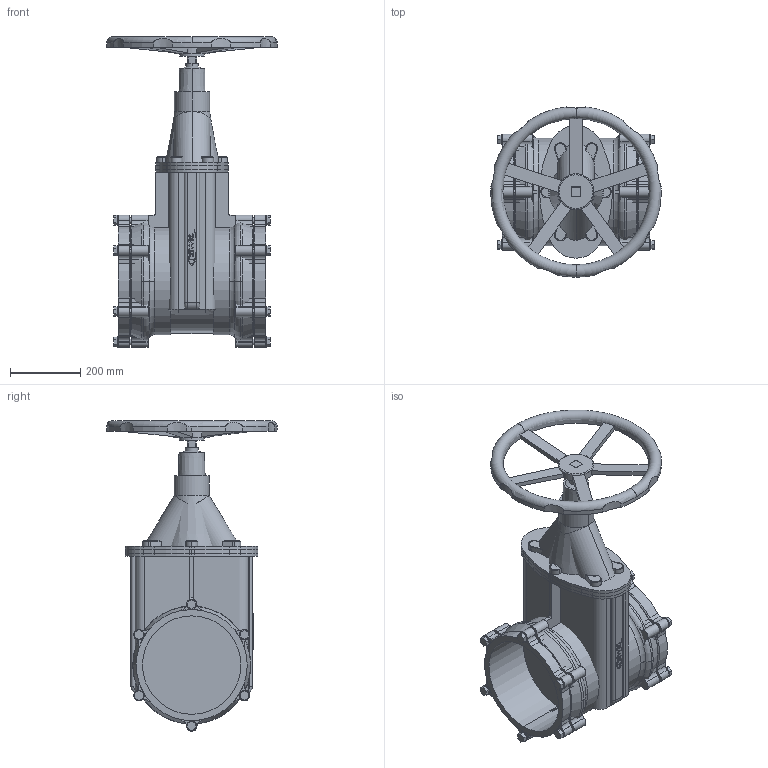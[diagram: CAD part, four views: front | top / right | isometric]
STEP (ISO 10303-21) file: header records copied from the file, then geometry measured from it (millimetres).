
FILE_DESCRIPTION(('STEP AP214'),'1');
FILE_NAME('S:/EK/USER/CAT6/3DHomepage/4040E2/4040E2-PN16-DN250-280-HANDRAD.STP','2012-04-24T11:32:48',(' '),(' '),'Spatial InterOp 3D',' ',' ');
FILE_SCHEMA(('automotive_design'));
Length unit declared in the file: millimetre
Products named in the file (117): 3D-Objekt
Bounding box: 486 x 484.36 x 882.99 mm (x, y, z)
Volume: 40728394.5 mm3; surface area: 2781404.4 mm2
Topology: 117 solids, 117 shells, 992 faces, 2251 edges, 1497 vertices
Faces by surface type: plane 580, cylinder 360, torus 38, cone 10, bspline 4
Entity records: 38963 total; most frequent: DIRECTION 5292, CARTESIAN_POINT 5195, ORIENTED_EDGE 4502, EDGE_CURVE 2251, AXIS2_PLACEMENT_3D 1946, VERTEX_POINT 1497, LINE 1400, VECTOR 1400
